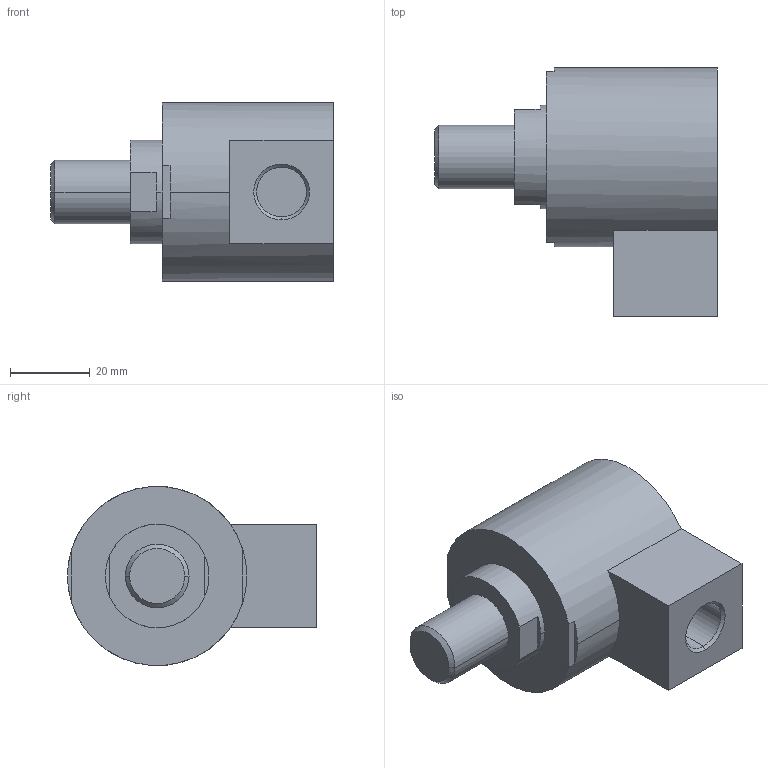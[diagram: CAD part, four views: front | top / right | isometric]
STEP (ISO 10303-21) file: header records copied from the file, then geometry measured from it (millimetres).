
FILE_DESCRIPTION((''),'2;1');
FILE_NAME('3531080010','2015-05-18T',('pma1hc'),(''),'PRO/ENGINEER BY PARAMETRIC TECHNOLOGY CORPORATION, 2011490','PRO/ENGINEER BY PARAMETRIC TECHNOLOGY CORPORATION, 2011490','');
FILE_SCHEMA(('AUTOMOTIVE_DESIGN_CC2 { 1 2 10303 214 -1 1 5 2 }'));
Length unit declared in the file: millimetre
Products named in the file (1): 3531080010
Bounding box: 71 x 62.5 x 44.93 mm (x, y, z)
Volume: 87746.8 mm3; surface area: 13394.8 mm2
Topology: 1 solids, 1 shells, 29 faces, 68 edges, 44 vertices
Faces by surface type: plane 17, cylinder 8, cone 4
Entity records: 849 total; most frequent: DIRECTION 156, CARTESIAN_POINT 141, ORIENTED_EDGE 136, EDGE_CURVE 68, AXIS2_PLACEMENT_3D 59, VERTEX_POINT 44, VECTOR 38, LINE 38
